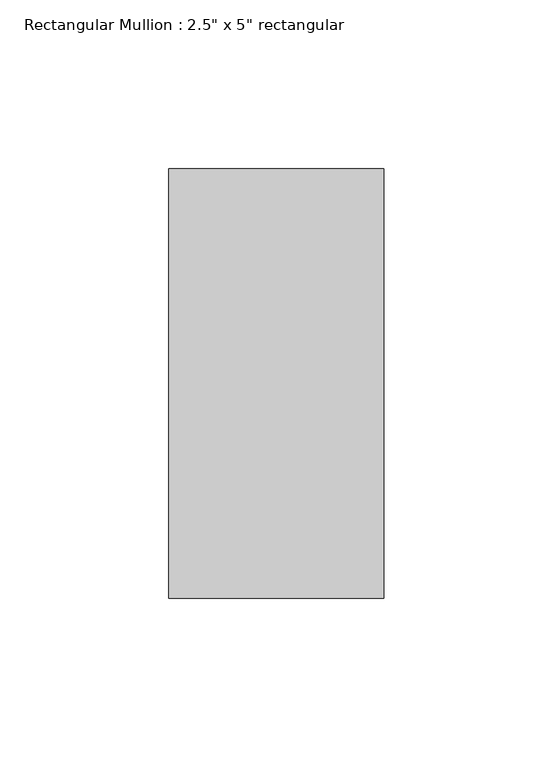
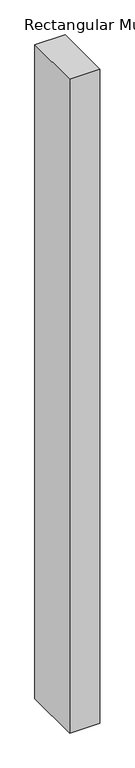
"""IFC4 building model written with IfcOpenShell, lengths in millimetres: member geometry."""

from ifc_helpers import new_model, si_unit, frame, origin, place, context, project, spatial, polyline, outline, extrude, source, transform, mapped, element, save


def member_be06fef6(model_context):
    return source(origin(), model_context, "Body", "SweptSolid", [
        extrude(outline(polyline([(0.0, 50.8), (0.0, -76.2), (-63.5, -76.2), (-63.5, 50.8), (0.0, 50.8)])), frame((0.0, 0.0, -1457.7785714), z_axis=(0.0, 0.0, 1.0), x_axis=(1.0, 0.0, 0.0)), (0.0, 0.0, 1.0), 1457.7785714),
    ])


if __name__ == "__main__":
    model = new_model("IFC4")
    model_context = context("Model", 3, world=origin())
    ifc_project = project(units=[si_unit("LENGTHUNIT", "METRE", prefix="MILLI")], contexts=[model_context])
    site = spatial("IfcSite", under=ifc_project)
    building = spatial("IfcBuilding", under=site)
    placement = place(None, origin())
    member_shape = member_be06fef6(model_context)
    element("IfcMember", 1, ObjectType="Rectangular Mullion : 2.5\" x 5\" rectangular", at=placement, inside=building, context=model_context, shape_type="MappedRepresentation", body=[
        mapped(member_shape, transform((0.0, 0.0, 0.0), x_axis=(1.0, 0.0, 0.0), y_axis=(0.0, 1.0, 0.0), z_axis=(0.0, 0.0, 1.0))),
    ])
    save(model, "model.ifc")
